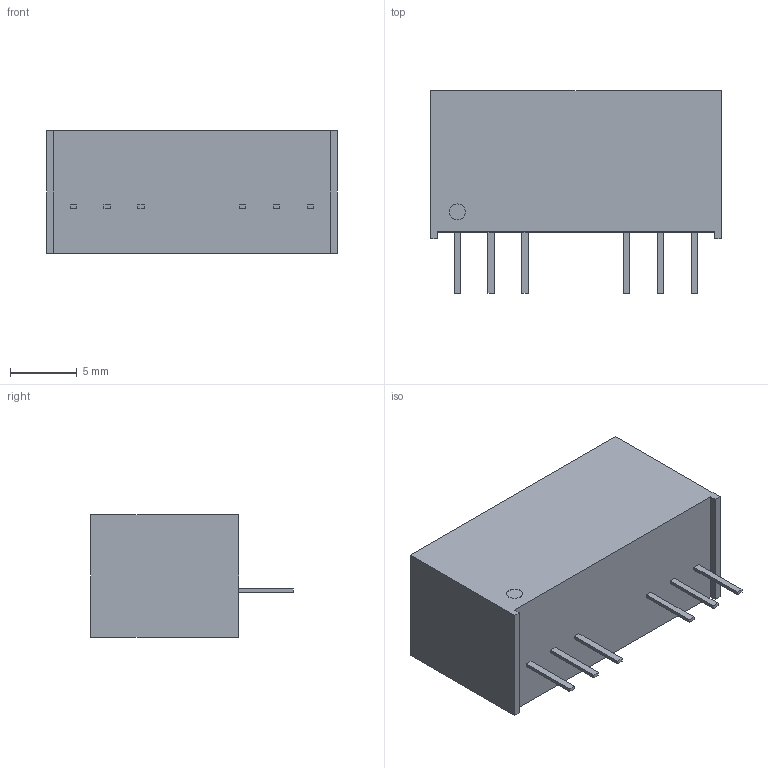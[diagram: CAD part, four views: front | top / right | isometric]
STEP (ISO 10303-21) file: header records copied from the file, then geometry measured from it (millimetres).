
FILE_DESCRIPTION (( 'STEP AP203' ), '1' );
FILE_NAME ('EC2SAW8&EC3SAW8&EC4SAW8成品圖[M-B151-F]V1.0.STEP', '2025-08-28T05:17:32', ( '' ), ( '' ), 'SwSTEP 2.0', 'SolidWorks 2020', '' );
FILE_SCHEMA (( 'CONFIG_CONTROL_DESIGN' ));
Length unit declared in the file: millimetre
Products named in the file (1): EC2SAW8&EC3SAW8&EC4SAW8成品圖[M-B151-F]V1.0
Bounding box: 21.8 x 15.2 x 9.2 mm (x, y, z)
Volume: 2134 mm3; surface area: 1119.2 mm2
Topology: 1 solids, 1 shells, 42 faces, 99 edges, 66 vertices
Faces by surface type: plane 41, cylinder 1
Full cylindrical faces by diameter (mm): 1.2 x1
Entity records: 1257 total; most frequent: CARTESIAN_POINT 207, ORIENTED_EDGE 196, DIRECTION 186, EDGE_CURVE 98, LINE 96, VECTOR 96, VERTEX_POINT 66, EDGE_LOOP 50
